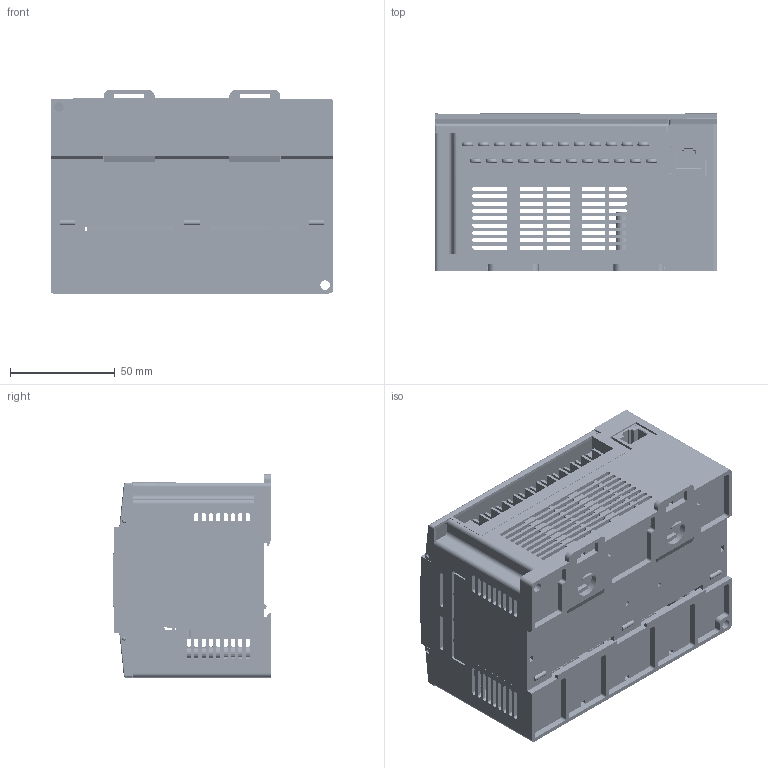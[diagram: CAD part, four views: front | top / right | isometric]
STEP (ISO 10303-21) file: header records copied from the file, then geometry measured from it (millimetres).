
FILE_DESCRIPTION (( 'STEP AP214' ), '1' );
FILE_NAME ('Assy_Block 32.STEP', '2021-01-27T07:22:37', ( '梯辨撩' ), ( '' ), 'SwSTEP 2.0', 'SolidWorks 2020', '' );
FILE_SCHEMA (( 'AUTOMOTIVE_DESIGN' ));
Length unit declared in the file: millimetre
Products named in the file (16): HP-762 T2A-24P; Bolt_鹵綠_褊濠_M3_6_BNT21039; 欽濠渠 cover_32_歜衛; BP SW_Center; plate_SB32MDT_Z1; Assy_Block 32; BP32_Upper Case_Z2; RT7; HP-762 T2A_24p; Din rail 堅薑晦; Assy_BP32_CPU; BP32_Bottom Case_Z2; Assy_BP32_IO; EXP cover_歜衛; USB mini_A
Assembly tree (65 placements, depth 4):
  Assy_Block 32
    BP32_Upper Case_Z2
    BP32_Bottom Case_Z2
    Assy_BP32_CPU
      BP SW_Center
    Assy_BP32_IO
      RT7
      USB mini_A
      HP-762 T2A-24P
        HP-762 T2A_24p
        Bolt_鹵綠_褊濠_M3_6_BNT21039  x24
      HP-762 T2A-24P
        HP-762 T2A_24p
        Bolt_鹵綠_褊濠_M3_6_BNT21039  x24
    EXP cover_歜衛
    欽濠渠 cover_32_歜衛  x2
    plate_SB32MDT_Z1
    Din rail 堅薑晦  x2
Bounding box: 135 x 75.16 x 97.35 mm (x, y, z)
Volume: 164600.4 mm3; surface area: 179946.7 mm2
Topology: 67 solids, 67 shells, 5472 faces, 15443 edges, 10122 vertices
Faces by surface type: plane 2932, cylinder 2068, torus 203, bspline 151, sphere 108, cone 10
Entity records: 92603 total; most frequent: CARTESIAN_POINT 17796, ORIENTED_EDGE 15492, DIRECTION 13970, EDGE_CURVE 7746, LINE 6346, VECTOR 6346, VERTEX_POINT 5126, AXIS2_PLACEMENT_3D 3812
